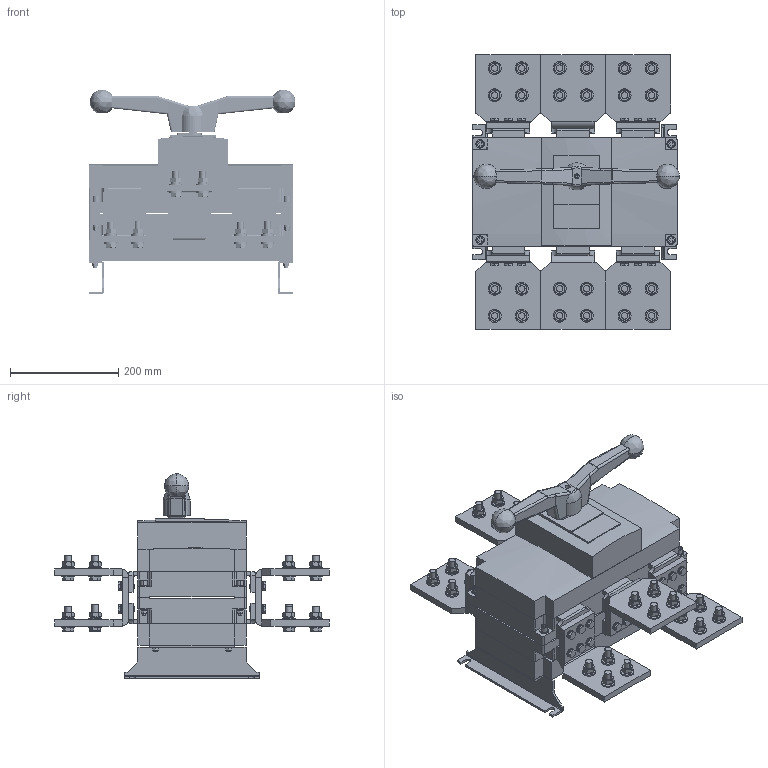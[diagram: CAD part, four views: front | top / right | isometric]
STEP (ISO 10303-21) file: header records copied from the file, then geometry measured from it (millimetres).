
FILE_DESCRIPTION((''),'2;1');
FILE_NAME('NH40-3150-3_3P_202406_ASM','2024-11-19T',('zhuanghy'),(''),'CREO PARAMETRIC BY PTC INC, 2018070','CREO PARAMETRIC BY PTC INC, 2018070','');
FILE_SCHEMA(('AUTOMOTIVE_DESIGN { 1 0 10303 214 1 1 1 1 }'));
Length unit declared in the file: millimetre
Products named in the file (199): BANNH40-3150-3_8_1_1_1_1_1; DZNH40-3150-3_6_1_1_1_1_1; AZBNH40-3150-3_7_1_1_1_1_1; LJBNH40-3150-3_3_1_1_1_1_1; SGNH40-3150-3_6_1_1_1_1_1; PDQ8_3_1_1_2_3_1_1_1; PDQ6_1_1_1_2_3_1_3_1; TDQ6_1_1_1_2_3_1_1_1; NLFLSM6_10_1_1_2_3_1_1_1; LMM6_2_1_1_2_3_1_1_1; LSM6_6_1_1_2_3_1_1_1; NH40-3150-3_ASM_5_ASM_1_1_ASM_1_ASM; NH40-1000-3150_ASM_7_1_2_ASM_1__ASM; ASM0004_ASM_1_ASM_1_ASM_1_ASM_1_ASM; NH40-3150-3_P_202103_ASM_1_1_AS_ASM; NH40-3150-3W_3P_202312_ASM_1_AS_ASM; NH40-3150-3W_3P_202405_ASM_1_AS_ASM; CTNH40-3150-3_3_1_1_1_3; PDQ12_3_1_1_1_1; LSM12_6_1_1_1_1; TDQ12_3_1_1_1_1; LMM12_3_1_1_1_1; PDQ6_1_1_1_2_3_1_4; TDQ6_1_1_1_2_3_1_2; LSM6_6_1_1_2_3_1_1; 1-0001_ASM_3_ASM; ASM0001_ASM_2_ASM; NH40-3150-3W_3P_202405_ASM_ASM__ASM; BANNH40-2000-3_8_1_1_1_1_1__A_3; BANNH40-2000-3_8_1_1_1_1_1__A_4; DZNH40-2000-3_6_1_1_1_1_1_1_A_2; AZBNH40-2000-3_7_1_1_1_1_1__A_3; AZBNH40-2000-3_7_1_1_1_1_1__A_4; LJBNH40-2000-3_2_1_1_1_1_1__A_9; LJBNH40-2000-3_2_1_1_1_1_1___10; LJBNH40-2000-3_2_1_1_1_1_1___11; LJBNH40-2000-3_2_1_1_1_1_1___12; LJBNH40-2000-3_2_1_1_1_1_1___13; LJBNH40-2000-3_2_1_1_1_1_1___14; LJBNH40-2000-3_2_1_1_1_1_1___15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
Assembly tree (338 placements, depth 10):
  NH40-3150-3_3P_202406_ASM
    NH40-3150-3W_3P_202405_ASM_ASM__ASM
      NH40-3150-3W_3P_202405_ASM_1_AS_ASM
        NH40-3150-3W_3P_202312_ASM_1_AS_ASM
          NH40-3150-3_P_202103_ASM_1_1_AS_ASM
            NH40-3150-3_ASM_5_ASM_1_1_ASM_1_ASM
              BANNH40-3150-3_8_1_1_1_1_1  x2
              DZNH40-3150-3_6_1_1_1_1_1
              AZBNH40-3150-3_7_1_1_1_1_1  x2
              LJBNH40-3150-3_3_1_1_1_1_1  x8
              SGNH40-3150-3_6_1_1_1_1_1
              PDQ8_3_1_1_2_3_1_1_1  x4
              PDQ6_1_1_1_2_3_1_3_1  x17
              TDQ6_1_1_1_2_3_1_1_1  x23
              NLFLSM6_10_1_1_2_3_1_1_1  x4
              LMM6_2_1_1_2_3_1_1_1  x7
              LSM6_6_1_1_2_3_1_1_1  x4
            ASM0004_ASM_1_ASM_1_ASM_1_ASM_1_ASM
              NH40-1000-3150_ASM_7_1_2_ASM_1__ASM
        PDQ6_1_1_1_2_3_1_3_1
        LSM6_6_1_1_2_3_1_1_1  x2
      LMM6_2_1_1_2_3_1_1_1
      1-0001_ASM_3_ASM  x4
        CTNH40-3150-3_3_1_1_1_3
        PDQ12_3_1_1_1_1
        LSM12_6_1_1_1_1
        TDQ12_3_1_1_1_1
        LMM12_3_1_1_1_1
        PDQ6_1_1_1_2_3_1_4
        TDQ6_1_1_1_2_3_1_2
        LSM6_6_1_1_2_3_1_1
      ASM0001_ASM_2_ASM  x2
        CTNH40-3150-3_3_1_1_1_3
        PDQ12_3_1_1_1_1
        LSM12_6_1_1_1_1
        TDQ12_3_1_1_1_1
        LMM12_3_1_1_1_1
        LSM6_6_1_1_2_3_1_1
        PDQ6_1_1_1_2_3_1_4
        TDQ6_1_1_1_2_3_1_2
    ASM0002_ASM
      NH40-2000-3_3P_202407_ASM_1_1_ASM
        NH40-2000-3W_3P_202407_ASM__A_2_ASM
          NH40-2000-3W_3P_202405_ASM__A_2_ASM
            NH40-2000-3W_3P_202312_ASM__A_2_ASM
              NH40-2500-3_3P_202209_5_ASM_A_2_ASM
                NH40-2000-3_3P_202103_ASM_1_A_3_ASM
                  NH40-2000-3_ASM_8_ASM_1_ASM_A_2_ASM
                  CTNH40-2000-3_7_2_1_1_1_1_1_A_7
                  CTNH40-2000-3_7_2_1_1_1_1_1_A_8
                  CTNH40-2000-3_7_2_1_1_1_1_1_A_9
                  CTNH40-2000-3_7_2_1_1_1_1_1__10
                  CTNH40-2000-3_7_2_1_1_1_1_1__11
                  CTNH40-2000-3_7_2_1_1_1_1_1__12
                NH40-1000_3150_202107_ASM_1_A_4_ASM
                  NH40-1000-3150_ASM_7_ASM_1_AS_4_ASM
                PRT0001_1_1_1_1_1_1_2
Bounding box: 382.5 x 508 x 377.96 mm (x, y, z)
Volume: 16973485.8 mm3; surface area: 1969577.5 mm2
Topology: 315 solids, 317 shells, 3760 faces, 9218 edges, 6157 vertices
Faces by surface type: plane 1863, cylinder 1344, cone 534, bspline 10, sphere 4, extrusion 3, torus 2
Entity records: 27662 total; most frequent: CARTESIAN_POINT 5462, DIRECTION 4247, ORIENTED_EDGE 2648, AXIS2_PLACEMENT_3D 1763, EDGE_CURVE 1325, VERTEX_POINT 885, PROPERTY_DEFINITION 766, REPRESENTATION 742
